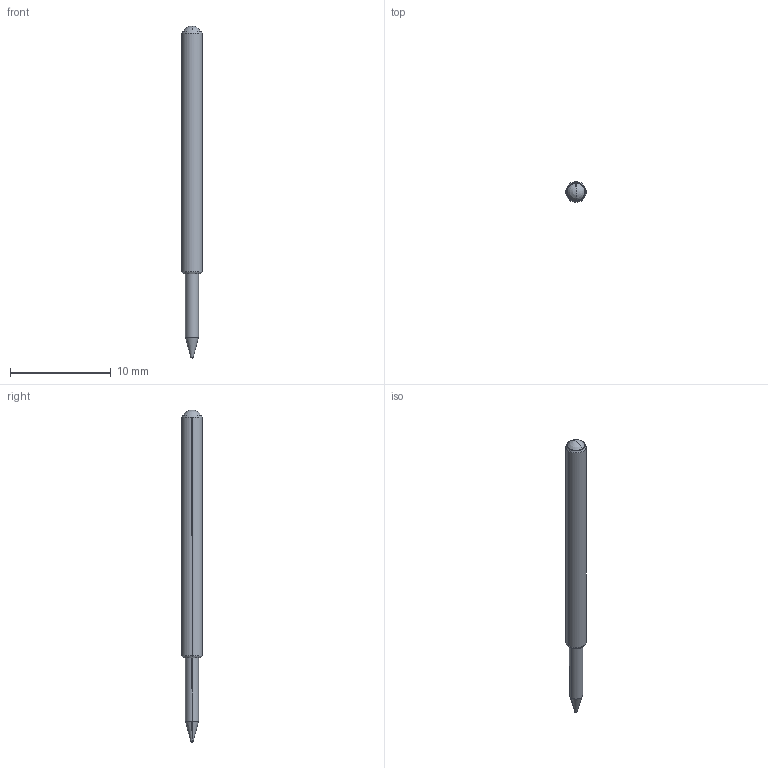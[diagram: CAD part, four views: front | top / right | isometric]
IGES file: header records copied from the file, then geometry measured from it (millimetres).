
Start section: SolidWorks IGES file using analytic representation for surfaces
Global section: file name: \\CODA-VM-SBS\RedirectedFolders\georged\My Documents\CODA CAD FILES\SPECIALIST TEST PRODUCTS\HIGH CURRENT TEST PROBES\HD-PA5\HD-PA5B.IGS; native system: SolidWorks 2024; preprocessor: SolidWorks 2024; author: GeorgeD; date: 250130.130553; units: millimetre
Bounding box: 2.03 x 2.03 x 33.02 mm (x, y, z)
Surface area: 194.2 mm2 (no closed solid volume)
Topology: 0 solids, 0 shells, 17 faces, 172 edges, 168 vertices
Faces by surface type: revolution 14, bspline 3
